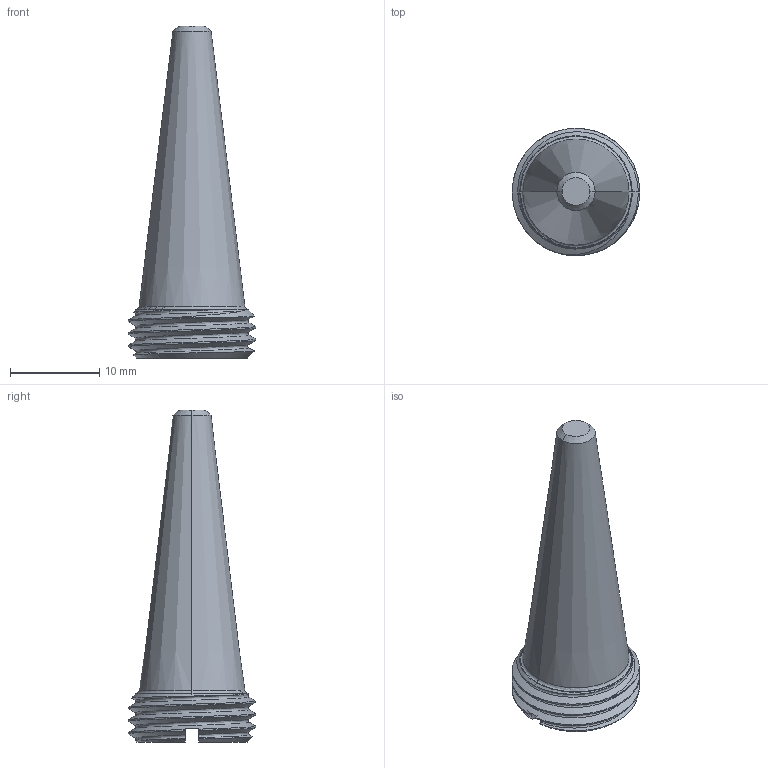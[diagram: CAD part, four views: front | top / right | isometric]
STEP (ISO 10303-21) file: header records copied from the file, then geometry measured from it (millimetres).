
FILE_DESCRIPTION (( 'STEP AP214' ), '1' );
FILE_NAME ('3DFSHB5620200A.STEP', '2021-03-31T18:22:16', ( '' ), ( '' ), 'SwSTEP 2.0', 'SolidWorks 2019', '' );
FILE_SCHEMA (( 'AUTOMOTIVE_DESIGN' ));
Length unit declared in the file: inch
Products named in the file (1): 3DFSHB5620200A
Bounding box: 14.29 x 14.28 x 37.21 mm (x, y, z)
Volume: 2461.8 mm3; surface area: 1353.6 mm2
Topology: 1 solids, 1 shells, 229 faces, 608 edges, 404 vertices
Faces by surface type: plane 124, bspline 89, cone 8, cylinder 6, torus 2
Entity records: 19472 total; most frequent: CARTESIAN_POINT 11925, ORIENTED_EDGE 1216, DIRECTION 697, EDGE_CURVE 608, VERTEX_POINT 404, VECTOR 381, LINE 381, EDGE_LOOP 252
